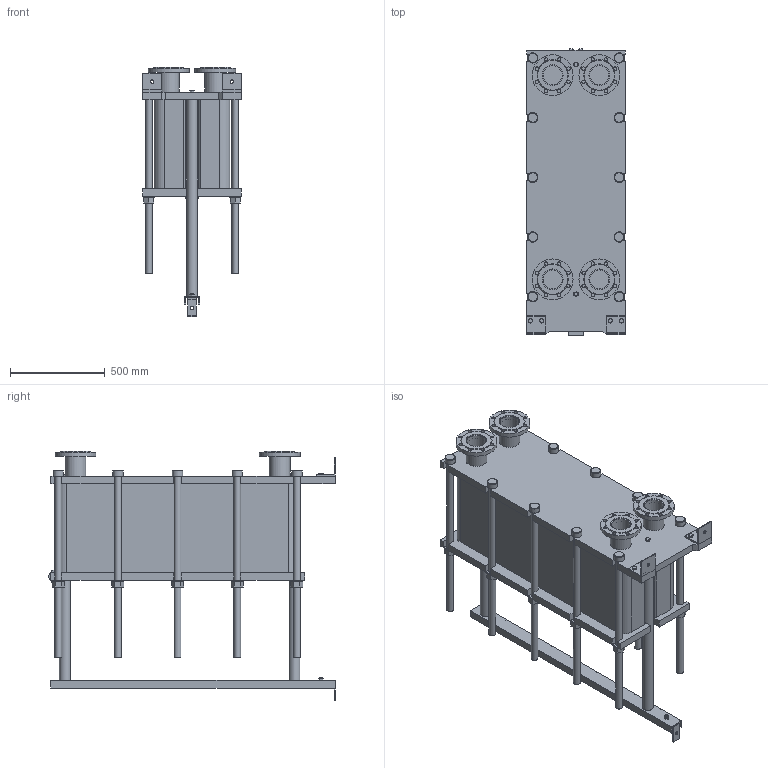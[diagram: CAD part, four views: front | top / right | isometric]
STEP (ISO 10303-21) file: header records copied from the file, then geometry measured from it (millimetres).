
FILE_DESCRIPTION(/* description */ (''),/* implementation_level */ '2;1');
FILE_NAME(/* name */ 'C:\Users\zhuro\Desktop\ENCO\TO\ЭН-04\ЭН-0,5-04-136-1.stp',/* time_stamp */ '2022-06-06T10:57:37+03:00',/* author */ ('zhuro'),/* organization */ (''),/* preprocessor_version */ 'ST-DEVELOPER v18.1',/* originating_system */ 'Autodesk Inventor 2022',/* authorisation */ '');
FILE_SCHEMA (('AUTOMOTIVE_DESIGN { 1 0 10303 214 3 1 1 }'));
Length unit declared in the file: millimetre
Products named in the file (1): ЭН-0,5-04-136-1
Bounding box: 520 x 1510 x 1313 mm (x, y, z)
Volume: 307629333.3 mm3; surface area: 9146905.4 mm2
Topology: 45 solids, 45 shells, 668 faces, 1611 edges, 1048 vertices
Faces by surface type: plane 457, cylinder 166, cone 39, torus 6
Full cylindrical faces by diameter (mm): 8 x4, 10 x2, 16 x8, 18 x35, 36 x25, 40 x2, 42 x1, 45 x4, 54 x10, 57 x2, 60 x10, 68 x2, 100 x4, 110 x8, 215 x4
Entity records: 23607 total; most frequent: CARTESIAN_POINT 7348, DIRECTION 3371, ORIENTED_EDGE 3142, EDGE_CURVE 1571, AXIS2_PLACEMENT_3D 1199, VERTEX_POINT 1044, LINE 973, VECTOR 973
